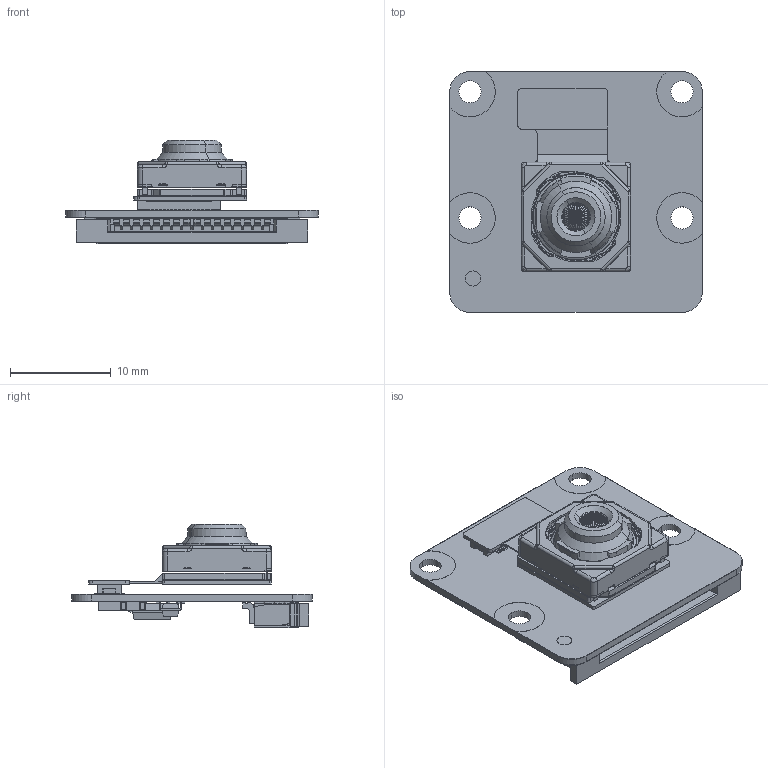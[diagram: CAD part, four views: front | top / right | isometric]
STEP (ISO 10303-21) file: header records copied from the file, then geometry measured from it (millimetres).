
FILE_DESCRIPTION(('Open CASCADE Model'),'2;1');
FILE_NAME('Open CASCADE Shape Model','2026-10-14T00:02:26',('Author'),( 'Open CASCADE'),'Open CASCADE STEP processor 8.0','build123d', 'Unknown');
FILE_SCHEMA(('AUTOMOTIVE_DESIGN { 1 0 10303 214 1 1 1 1 }'));
Length unit declared in the file: millimetre
Products named in the file (19): COMPOUND; SOLID
Assembly tree (18 placements, depth 2):
  COMPOUND
    SOLID
    SOLID
    SOLID
    SOLID
    SOLID
    SOLID
    SOLID
    SOLID
    SOLID
    SOLID
    SOLID
    SOLID
    SOLID
    SOLID
    SOLID
    SOLID
    SOLID
    SOLID
Bounding box: 25 x 23.86 x 10.24 mm (x, y, z)
Volume: 1069 mm3; surface area: 5689.8 mm2
Topology: 18 solids, 18 shells, 6004 faces, 16056 edges, 10197 vertices
Faces by surface type: plane 3680, cylinder 1467, cone 566, torus 148, sphere 80, bspline 63
Entity records: 458040 total; most frequent: CARTESIAN_POINT 136542, DIRECTION 60259, LINE 39228, VECTOR 39228, ORIENTED_EDGE 32112, PCURVE 32112, DEFINITIONAL_REPRESENTATION 32112, EDGE_CURVE 16056
